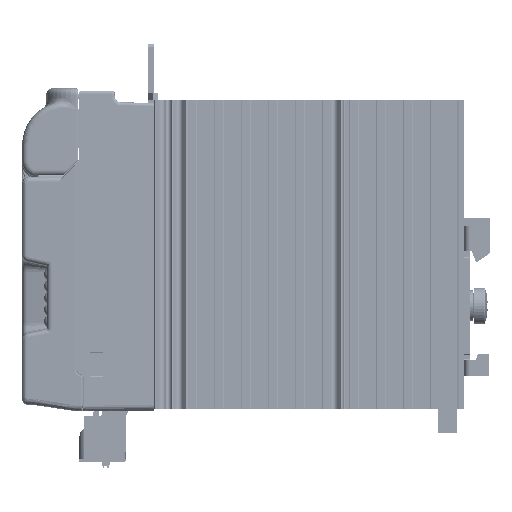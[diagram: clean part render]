
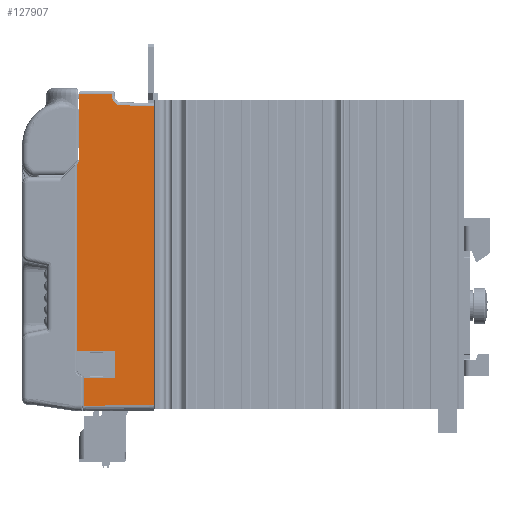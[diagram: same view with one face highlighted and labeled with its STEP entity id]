
A CAD part, left-side view. The second image highlights one B-rep face of the part: STEP entity #127907.
In plain terms, the highlighted planar face has unit normal (-1, -0.026, 0) as drawn and (1, 0.026, 0) by its records, which use the part's own axes.
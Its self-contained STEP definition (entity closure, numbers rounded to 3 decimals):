
#107509=CARTESIAN_POINT('',(29.347,24.5,-48.));
#107520=DIRECTION('',(0.,0.,1.));
#107521=VECTOR('',#107520,96.347);
#107522=CARTESIAN_POINT('',(29.347,24.5,-48.));
#107523=LINE('',#107522,#107521);
#107533=CARTESIAN_POINT('',(29.347,24.5,48.347));
#108116=DIRECTION('',(-0.026,1.,0.));
#108117=VECTOR('',#108116,10.151);
#108118=CARTESIAN_POINT('',(29.946,1.603,
-39.53));
#108119=LINE('',#108118,#108117);
#108123=DIRECTION('',(0.,0.,1.));
#108124=VECTOR('',#108123,8.91);
#108125=CARTESIAN_POINT('',(29.681,11.75,-39.53));
#108126=LINE('',#108125,#108124);
#108130=DIRECTION('',(-0.026,1.,0.));
#108131=VECTOR('',#108130,12.102);
#108132=CARTESIAN_POINT('',(29.997,-0.347,-30.62));
#108133=LINE('',#108132,#108131);
#108137=DIRECTION('',(0.,0.,-1.));
#108138=VECTOR('',#108137,60.396);
#108139=CARTESIAN_POINT('',(29.997,-0.347,
29.776));
#108140=LINE('',#108139,#108138);
#108144=CARTESIAN_POINT('',(29.996,-0.289,
29.917));
#108145=CARTESIAN_POINT('',(29.996,-0.298,
29.908));
#108146=CARTESIAN_POINT('',(29.996,-0.314,
29.889));
#108147=CARTESIAN_POINT('',(29.997,-0.33,
29.86));
#108148=CARTESIAN_POINT('',(29.997,-0.34,
29.832));
#108149=CARTESIAN_POINT('',(29.997,-0.346,
29.804));
#108150=CARTESIAN_POINT('',(29.997,-0.347,
29.785));
#108151=CARTESIAN_POINT('',(29.997,-0.347,
29.776));
#108156=DIRECTION('',(0.019,-0.707,-0.707));
#108157=VECTOR('',#108156,0.459);
#108158=CARTESIAN_POINT('',(29.987,0.035,
30.241));
#108159=LINE('',#108158,#108157);
#108163=CARTESIAN_POINT('',(29.984,0.153,
30.524));
#108164=CARTESIAN_POINT('',(29.984,0.153,
30.492));
#108165=CARTESIAN_POINT('',(29.984,0.146,
30.428));
#108166=CARTESIAN_POINT('',(29.985,0.105,
30.324));
#108167=CARTESIAN_POINT('',(29.987,0.062,
30.268));
#108168=CARTESIAN_POINT('',(29.987,0.035,
30.241));
#108173=DIRECTION('',(0.,0.,-1.));
#108174=VECTOR('',#108173,21.822);
#108175=CARTESIAN_POINT('',(29.984,0.153,
52.347));
#108176=LINE('',#108175,#108174);
#108180=DIRECTION('',(-0.026,1.,0.));
#108181=VECTOR('',#108180,10.577);
#108182=CARTESIAN_POINT('',(29.984,0.153,
52.347));
#108183=LINE('',#108182,#108181);
#108187=DIRECTION('',(0.,0.,
-1.));
#108188=VECTOR('',#108187,0.717);
#108189=CARTESIAN_POINT('',(29.707,10.726,
52.347));
#108190=LINE('',#108189,#108188);
#108194=CARTESIAN_POINT('',(29.707,10.726,
51.63));
#108195=CARTESIAN_POINT('',(29.707,10.726,
51.409));
#108196=CARTESIAN_POINT('',(29.706,10.773,
50.977));
#108197=CARTESIAN_POINT('',(29.7,10.991,
50.339));
#108198=CARTESIAN_POINT('',(29.691,11.339,
49.773));
#108199=CARTESIAN_POINT('',(29.679,11.807,
49.293));
#108200=CARTESIAN_POINT('',(29.664,12.363,
48.93));
#108201=CARTESIAN_POINT('',(29.648,12.995,
48.696));
#108202=CARTESIAN_POINT('',(29.637,13.426,
48.637));
#108203=CARTESIAN_POINT('',(29.631,13.648,
48.631));
#108208=DIRECTION('',(-0.026,0.999,-0.026));
#108209=VECTOR('',#108208,10.86);
#108210=CARTESIAN_POINT('',(29.631,13.648,
48.631));
#108211=LINE('',#108210,#108209);
#108215=DIRECTION('',(0.,0.,
-1.));
#108216=VECTOR('',#108215,8.869);
#108217=CARTESIAN_POINT('',(29.946,1.603,
-39.53));
#108218=LINE('',#108217,#108216);
#120165=CARTESIAN_POINT('',(29.946,1.603,
-48.398));
#120178=DIRECTION('',(-0.026,1.,0.017));
#120179=VECTOR('',#120178,22.909);
#120180=CARTESIAN_POINT('',(29.946,1.603,
-48.398));
#120181=LINE('',#120180,#120179);
#125673=VERTEX_POINT('',#107509);
#125687=VERTEX_POINT('',#120165);
#125689=VERTEX_POINT('',#108144);
#125690=VERTEX_POINT('',#108151);
#125693=CARTESIAN_POINT('',(29.987,0.035,
30.241));
#125694=VERTEX_POINT('',#125693);
#125697=VERTEX_POINT('',#108163);
#125739=VERTEX_POINT('',#107533);
#125740=CARTESIAN_POINT('',(29.631,13.648,
48.631));
#125741=VERTEX_POINT('',#125740);
#125745=VERTEX_POINT('',#108194);
#125748=CARTESIAN_POINT('',(29.707,10.726,
52.347));
#125749=VERTEX_POINT('',#125748);
#125754=CARTESIAN_POINT('',(29.984,0.153,
52.347));
#125755=VERTEX_POINT('',#125754);
#126868=CARTESIAN_POINT('',(29.946,1.603,
-39.53));
#126869=CARTESIAN_POINT('',(29.681,11.75,-39.53));
#126870=VERTEX_POINT('',#126868);
#126871=VERTEX_POINT('',#126869);
#126872=CARTESIAN_POINT('',(29.681,11.75,-30.62));
#126873=VERTEX_POINT('',#126872);
#126874=CARTESIAN_POINT('',(29.997,-0.347,-30.62));
#126875=VERTEX_POINT('',#126874);
#127874=CARTESIAN_POINT('',(30.,-0.45,51.54));
#127875=DIRECTION('',(1.,0.026,0.));
#127876=DIRECTION('',(0.,0.,1.));
#127877=AXIS2_PLACEMENT_3D('',#127874,#127875,#127876);
#127878=PLANE('',#127877);
#127879=ORIENTED_EDGE('',*,*,#127849,.T.);
#127880=ORIENTED_EDGE('',*,*,#127570,.T.);
#127881=ORIENTED_EDGE('',*,*,#127542,.F.);
#127883=ORIENTED_EDGE('',*,*,#127882,.F.);
#127885=ORIENTED_EDGE('',*,*,#127884,.F.);
#127887=ORIENTED_EDGE('',*,*,#127886,.F.);
#127889=ORIENTED_EDGE('',*,*,#127888,.F.);
#127891=ORIENTED_EDGE('',*,*,#127890,.F.);
#127893=ORIENTED_EDGE('',*,*,#127892,.T.);
#127895=ORIENTED_EDGE('',*,*,#127894,.T.);
#127897=ORIENTED_EDGE('',*,*,#127896,.T.);
#127899=ORIENTED_EDGE('',*,*,#127898,.T.);
#127900=ORIENTED_EDGE('',*,*,#127373,.F.);
#127902=ORIENTED_EDGE('',*,*,#127901,.F.);
#127904=ORIENTED_EDGE('',*,*,#127903,.F.);
#127905=EDGE_LOOP('',(#127879,#127880,#127881,#127883,#127885,#127887,#127889,
#127891,#127893,#127895,#127897,#127899,#127900,#127902,#127904));
#127906=FACE_OUTER_BOUND('',#127905,.F.);
#108152=B_SPLINE_CURVE_WITH_KNOTS('',3,(#108144,#108145,#108146,#108147,#108148,
#108149,#108150,#108151),.UNSPECIFIED.,.F.,.F.,(4,1,1,1,1,4),(0.,0.2,0.4,
0.6,0.8,1.),.UNSPECIFIED.);
#108169=B_SPLINE_CURVE_WITH_KNOTS('',3,(#108163,#108164,#108165,#108166,#108167,
#108168),.UNSPECIFIED.,.F.,.F.,(4,1,1,4),(0.,0.333,
0.667,1.),.UNSPECIFIED.);
#108204=B_SPLINE_CURVE_WITH_KNOTS('',3,(#108194,#108195,#108196,#108197,#108198,
#108199,#108200,#108201,#108202,#108203),.UNSPECIFIED.,.F.,.F.,(4,1,1,1,1,1,1,
4),(0.,0.143,0.286,0.429,
0.571,0.714,0.857,1.),.UNSPECIFIED.);
#127373=EDGE_CURVE('',#125673,#125739,#107523,.T.);
#127542=EDGE_CURVE('',#126875,#126873,#108133,.T.);
#127570=EDGE_CURVE('',#126871,#126873,#108126,.T.);
#127849=EDGE_CURVE('',#126870,#126871,#108119,.T.);
#127882=EDGE_CURVE('',#125690,#126875,#108140,.T.);
#127884=EDGE_CURVE('',#125689,#125690,#108152,.T.);
#127886=EDGE_CURVE('',#125694,#125689,#108159,.T.);
#127888=EDGE_CURVE('',#125697,#125694,#108169,.T.);
#127890=EDGE_CURVE('',#125755,#125697,#108176,.T.);
#127892=EDGE_CURVE('',#125755,#125749,#108183,.T.);
#127894=EDGE_CURVE('',#125749,#125745,#108190,.T.);
#127896=EDGE_CURVE('',#125745,#125741,#108204,.T.);
#127898=EDGE_CURVE('',#125741,#125739,#108211,.T.);
#127901=EDGE_CURVE('',#125687,#125673,#120181,.T.);
#127903=EDGE_CURVE('',#126870,#125687,#108218,.T.);
#127907=ADVANCED_FACE('',(#127906),#127878,.T.);
